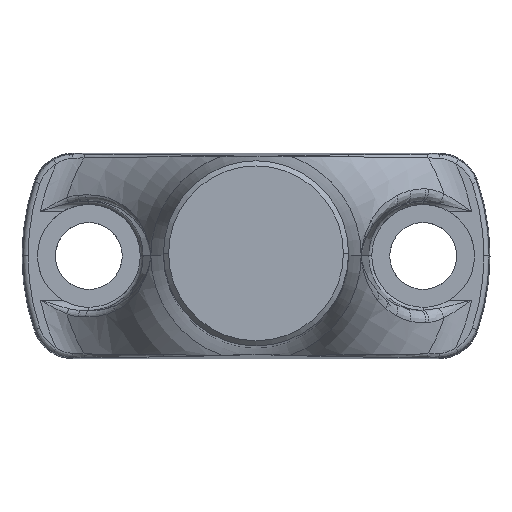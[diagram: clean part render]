
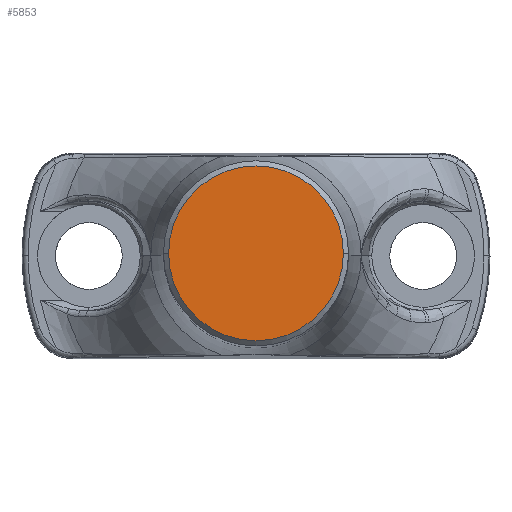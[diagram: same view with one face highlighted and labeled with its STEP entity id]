
A CAD part, top view. The second image highlights one B-rep face of the part: STEP entity #5853.
In plain terms, the highlighted planar face has unit normal (0, 0, 1).
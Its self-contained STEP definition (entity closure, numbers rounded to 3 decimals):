
#5805=CARTESIAN_POINT('Vertex',(17.,0.,300.)) ;
#5808=CARTESIAN_POINT('Axis2P3D Location',(0.,0.,300.)) ;
#5812=CARTESIAN_POINT('Vertex',(-17.,0.,300.)) ;
#5832=CARTESIAN_POINT('Axis2P3D Location',(0.,0.,300.)) ;
#5844=CARTESIAN_POINT('Axis2P3D Location',(75.,-23.482,300.)) ;
#5809=DIRECTION('Axis2P3D Direction',(-0.,0.,-1.)) ;
#5833=DIRECTION('Axis2P3D Direction',(-0.,0.,-1.)) ;
#5845=DIRECTION('Axis2P3D Direction',(0.,0.,-1.)) ;
#5846=DIRECTION('Axis2P3D XDirection',(-1.,0.,0.)) ;
#5810=AXIS2_PLACEMENT_3D('Circle Axis2P3D',#5808,#5809,$) ;
#5834=AXIS2_PLACEMENT_3D('Circle Axis2P3D',#5832,#5833,$) ;
#5847=AXIS2_PLACEMENT_3D('Plane Axis2P3D',#5844,#5845,#5846) ;
#5850=ORIENTED_EDGE('',*,*,#5814,.T.) ;
#5851=ORIENTED_EDGE('',*,*,#5836,.T.) ;
#5853=ADVANCED_FACE('Smusso2',(#5852),#5848,.F.) ;
#5811=CIRCLE('generated circle',#5810,17.) ;
#5835=CIRCLE('generated circle',#5834,17.) ;
#5814=EDGE_CURVE('',#5813,#5806,#5811,.F.) ;
#5836=EDGE_CURVE('',#5806,#5813,#5835,.F.) ;
#5849=EDGE_LOOP('',(#5850,#5851)) ;
#5852=FACE_OUTER_BOUND('',#5849,.T.) ;
#5848=PLANE('Plane',#5847) ;
#5806=VERTEX_POINT('',#5805) ;
#5813=VERTEX_POINT('',#5812) ;
